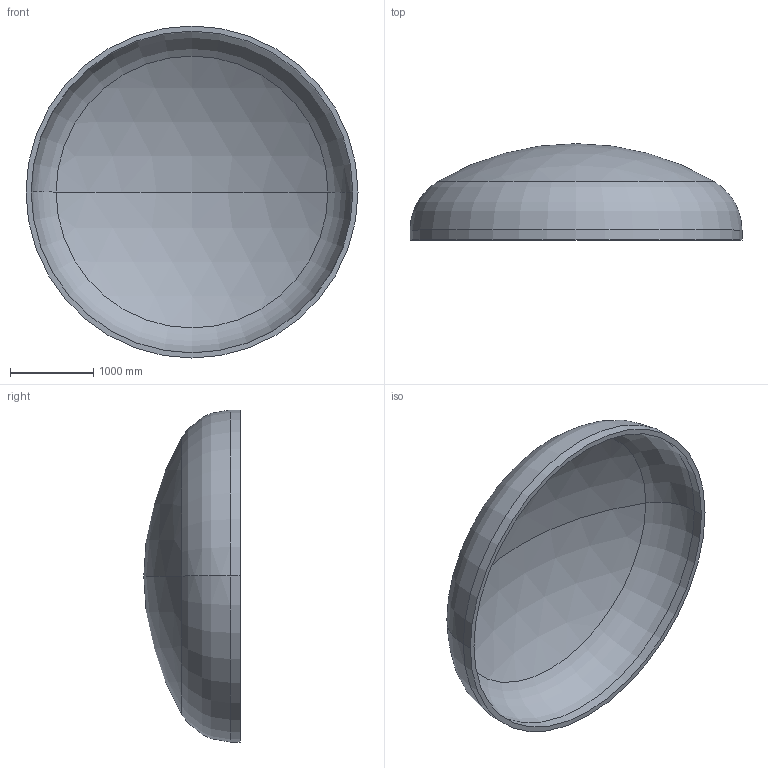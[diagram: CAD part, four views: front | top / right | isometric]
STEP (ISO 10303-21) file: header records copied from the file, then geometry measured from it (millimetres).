
FILE_DESCRIPTION (( 'STEP AP203' ), '1' );
FILE_NAME ('DIN 28013 Korbbogenform_-_Boden DIN 28013 - 4000 x 120 - I - s=62.step', '2016-07-01T22:34:21', ( '' ), ( '' ), 'SwSTEP 2.0', 'SolidWorks 2013', '' );
FILE_SCHEMA (( 'CONFIG_CONTROL_DESIGN' ));
Length unit declared in the file: millimetre
Products named in the file (1): DIN 28013 Korbbogenform_-_Boden DIN 28013 - 4000 x 120 - I - s=62
Bounding box: 4000 x 1161.21 x 4000 mm (x, y, z)
Volume: 1148911416.5 mm3; surface area: 37836734.8 mm2
Topology: 1 solids, 1 shells, 13 faces, 24 edges, 14 vertices
Faces by surface type: torus 4, cylinder 4, sphere 4, plane 1
Entity records: 407 total; most frequent: DIRECTION 72, CARTESIAN_POINT 52, ORIENTED_EDGE 48, AXIS2_PLACEMENT_3D 34, EDGE_CURVE 24, CIRCLE 20, EDGE_LOOP 14, VERTEX_POINT 14
